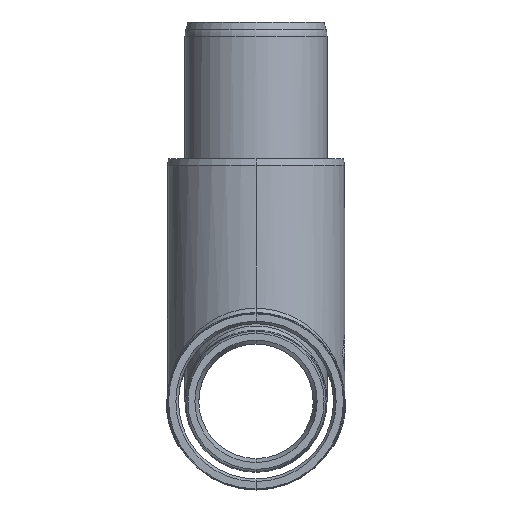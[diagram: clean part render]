
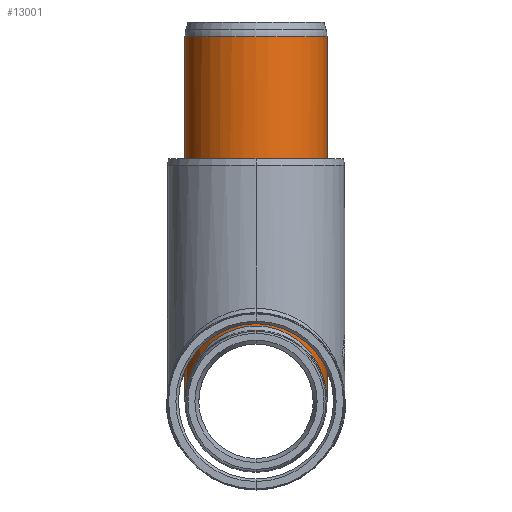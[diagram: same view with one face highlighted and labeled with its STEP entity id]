
A CAD part, front view. The second image highlights one B-rep face of the part: STEP entity #13001.
In plain terms, the highlighted cylindrical face has radius 16.1 mm (diameter 32.2 mm), a partial arc.
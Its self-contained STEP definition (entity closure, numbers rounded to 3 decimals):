
#246 = DIRECTION ( 'NONE',  ( 1., 0., 0. ) ) ;
#1169 = DIRECTION ( 'NONE',  ( 0., 0., -1. ) ) ;
#1641 = ORIENTED_EDGE ( 'NONE', *, *, #13102, .T. ) ;
#1693 = EDGE_CURVE ( 'NONE', #15103, #20709, #8468, .T. ) ;
#1995 = DIRECTION ( 'NONE',  ( 0., 0., 1. ) ) ;
#3491 = AXIS2_PLACEMENT_3D ( 'NONE', #7089, #27786, #1995 ) ;
#3990 = VECTOR ( 'NONE', #246, 1000. ) ;
#5966 = VERTEX_POINT ( 'NONE', #12310 ) ;
#6259 = DIRECTION ( 'NONE',  ( 1., 0., 0. ) ) ;
#7082 = CARTESIAN_POINT ( 'NONE',  ( -34.2, -32.2, -16.1 ) ) ;
#7089 = CARTESIAN_POINT ( 'NONE',  ( -82.71, 0., 0. ) ) ;
#7283 = CIRCLE ( 'NONE', #3491, 16.1 ) ;
#8468 = LINE ( 'NONE', #13750, #20799 ) ;
#8866 = EDGE_CURVE ( 'NONE', #5966, #32766, #33491, .T. ) ;
#12310 = CARTESIAN_POINT ( 'NONE',  ( -82.71, 0., 16.1 ) ) ;
#12362 = CARTESIAN_POINT ( 'NONE',  ( -34.2, -32.2, 16.1 ) ) ;
#13001 = ADVANCED_FACE ( 'NONE', ( #28985 ), #18657, .T. ) ;
#13102 = EDGE_CURVE ( 'NONE', #20709, #32766, #21443, .T. ) ;
#13750 = CARTESIAN_POINT ( 'NONE',  ( -86., 0., -16.1 ) ) ;
#15103 = VERTEX_POINT ( 'NONE', #26288 ) ;
#18657 = CYLINDRICAL_SURFACE ( 'NONE', #23222, 16.1 ) ;
#18953 = EDGE_CURVE ( 'NONE', #5966, #15103, #7283, .T. ) ;
#19561 = ORIENTED_EDGE ( 'NONE', *, *, #8866, .F. ) ;
#20709 = VERTEX_POINT ( 'NONE', #32837 ) ;
#20799 = VECTOR ( 'NONE', #22075, 1000. ) ;
#21443 =( BOUNDED_CURVE ( )  B_SPLINE_CURVE ( 3, ( #24762, #7082, #12362, #22701 ),
 .UNSPECIFIED., .F., .T. ) 
 B_SPLINE_CURVE_WITH_KNOTS ( ( 4, 4 ),
 ( 1.571, 4.712 ),
 .UNSPECIFIED. ) 
 CURVE ( )  GEOMETRIC_REPRESENTATION_ITEM ( )  RATIONAL_B_SPLINE_CURVE ( ( 1., 0.333, 0.333, 1. ) ) 
 REPRESENTATION_ITEM ( '' )  );
#21717 = ORIENTED_EDGE ( 'NONE', *, *, #18953, .T. ) ;
#22075 = DIRECTION ( 'NONE',  ( 1., 0., 0. ) ) ;
#22701 = CARTESIAN_POINT ( 'NONE',  ( 0., 0., 16.1 ) ) ;
#23222 = AXIS2_PLACEMENT_3D ( 'NONE', #32039, #6259, #1169 ) ;
#23491 = CARTESIAN_POINT ( 'NONE',  ( -86., 0., 16.1 ) ) ;
#24391 = ORIENTED_EDGE ( 'NONE', *, *, #1693, .T. ) ;
#24762 = CARTESIAN_POINT ( 'NONE',  ( 0., 0., -16.1 ) ) ;
#26288 = CARTESIAN_POINT ( 'NONE',  ( -82.71, 0., -16.1 ) ) ;
#26361 = EDGE_LOOP ( 'NONE', ( #19561, #21717, #24391, #1641 ) ) ;
#27786 = DIRECTION ( 'NONE',  ( 1., 0., 0. ) ) ;
#28985 = FACE_OUTER_BOUND ( 'NONE', #26361, .T. ) ;
#32039 = CARTESIAN_POINT ( 'NONE',  ( -86., 0., 0. ) ) ;
#32766 = VERTEX_POINT ( 'NONE', #32861 ) ;
#32837 = CARTESIAN_POINT ( 'NONE',  ( 0., 0., -16.1 ) ) ;
#32861 = CARTESIAN_POINT ( 'NONE',  ( 0., 0., 16.1 ) ) ;
#33491 = LINE ( 'NONE', #23491, #3990 ) ;
